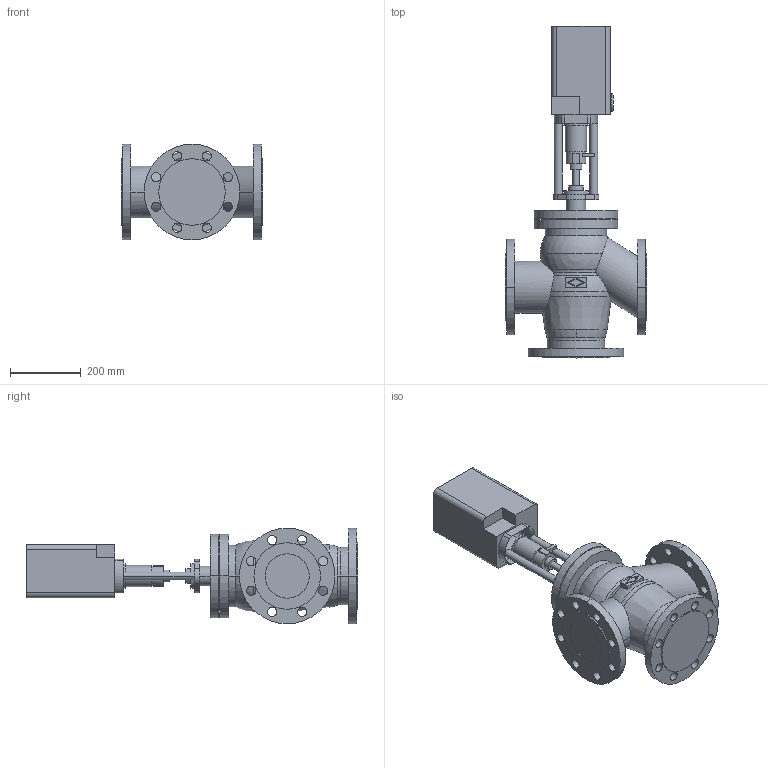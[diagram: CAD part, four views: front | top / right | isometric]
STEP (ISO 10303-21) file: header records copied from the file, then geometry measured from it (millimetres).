
FILE_DESCRIPTION(('OneSpaceDesigner STEP Export'),'2;1');
FILE_NAME('c000000397.stp','2006-09-19T11:48:37',(''),(''),'OneSpace Designer STEP processor for AP214 (Solid Model)','OneSpace Designer 13.20A 18-Aug-2005 (C) CoCreate Software GmbH','');
FILE_SCHEMA(('AUTOMOTIVE_DESIGN { 1 0 10303 214 1 1 1 1 }'));
Length unit declared in the file: millimetre
Products named in the file (2): 1; 2
Bounding box: 400 x 938 x 270 mm (x, y, z)
Volume: 25686824.9 mm3; surface area: 1070923 mm2
Topology: 2 solids, 2 shells, 214 faces, 552 edges, 360 vertices
Faces by surface type: cylinder 114, plane 80, torus 10, sphere 8, cone 2
Entity records: 6075 total; most frequent: CARTESIAN_POINT 1251, ORIENTED_EDGE 1088, DIRECTION 871, EDGE_CURVE 544, VERTEX_POINT 360, AXIS2_PLACEMENT_3D 317, EDGE_LOOP 288, VECTOR 237
